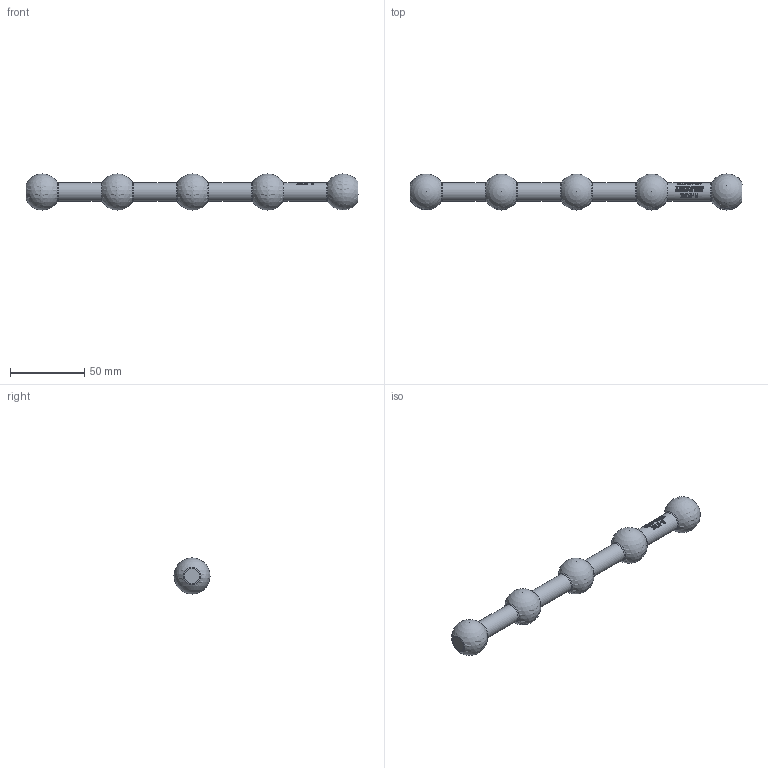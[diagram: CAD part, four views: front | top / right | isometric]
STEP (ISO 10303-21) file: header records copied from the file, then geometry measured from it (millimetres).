
FILE_DESCRIPTION(/* description */ (''),/* implementation_level */ '2;1');
FILE_NAME(/* name */ 'C:\Users\owner\Desktop\PL-HYPERLINKS_3D_stp\PL-HLINK8IN.stp',/* time_stamp */ '2017-09-29T15:00:08-04:00',/* author */ ('owner'),/* organization */ (''),/* preprocessor_version */ 'ST-DEVELOPER v16.5',/* originating_system */ 'Autodesk Inventor 2017',/* authorisation */ '');
FILE_SCHEMA (('CONFIG_CONTROL_DESIGN'));
Length unit declared in the file: inch
Products named in the file (4): PL-HLINK8IN; 60032; 60033-1; 60033-2
Assembly tree (5 placements, depth 2):
  PL-HLINK8IN
    60033-1  x3
    60032
    60033-2
Bounding box: 224.19 x 24.36 x 24.37 mm (x, y, z)
Volume: 50171.4 mm3; surface area: 17556.4 mm2
Topology: 5 solids, 5 shells, 780 faces, 2083 edges, 1382 vertices
Faces by surface type: plane 359, bspline 303, cylinder 82, torus 17, cone 14, sphere 5
Full cylindrical faces by diameter (mm): 9.487 x4, 9.525 x5, 9.588 x4, 12.611 x4
Entity records: 29058 total; most frequent: CARTESIAN_POINT 11943, ORIENTED_EDGE 3956, DIRECTION 2706, EDGE_CURVE 1978, VERTEX_POINT 1326, LINE 966, VECTOR 966, AXIS2_PLACEMENT_3D 870
